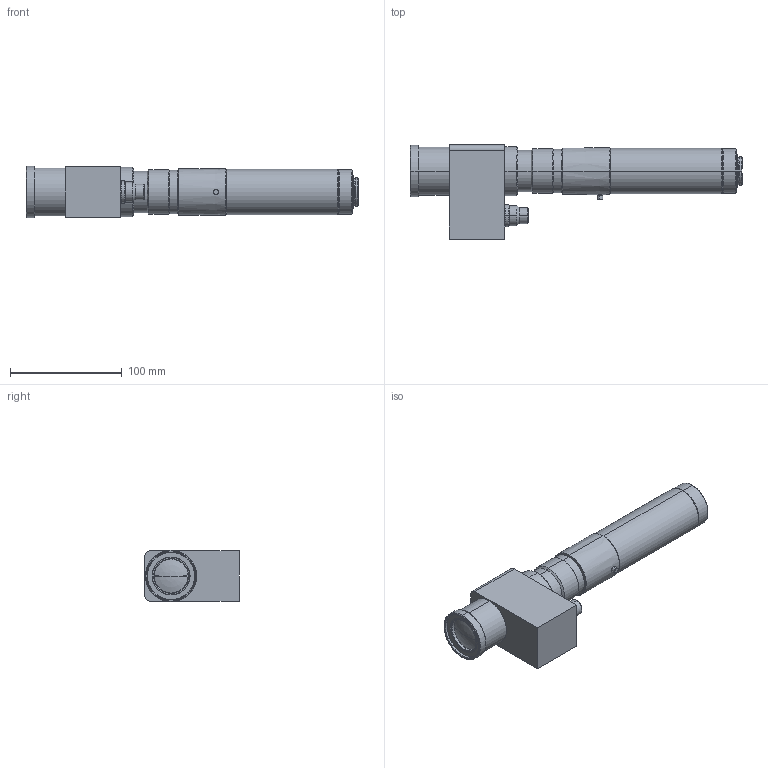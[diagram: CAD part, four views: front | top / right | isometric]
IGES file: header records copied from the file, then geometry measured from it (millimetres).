
Start section: SolidWorks IGES file using analytic representation for surfaces
Global section: file name: \\192.168.200.11\Development\3 製品\1 標準品\04 ズームレンズ\02 10x (VSZ-10100)\VSZ-10100COL\10.3D外観モデル\VSZ-10100COL.IGS; native system: SolidWorks 2016; preprocessor: SolidWorks 2016; author: miura_vst; date: 160711.151144; units: millimetre
Bounding box: 297.48 x 84.5 x 46 mm (x, y, z)
Surface area: 57953.5 mm2 (no closed solid volume)
Topology: 0 solids, 0 shells, 204 faces, 3560 edges, 3559 vertices
Faces by surface type: revolution 159, bspline 45
